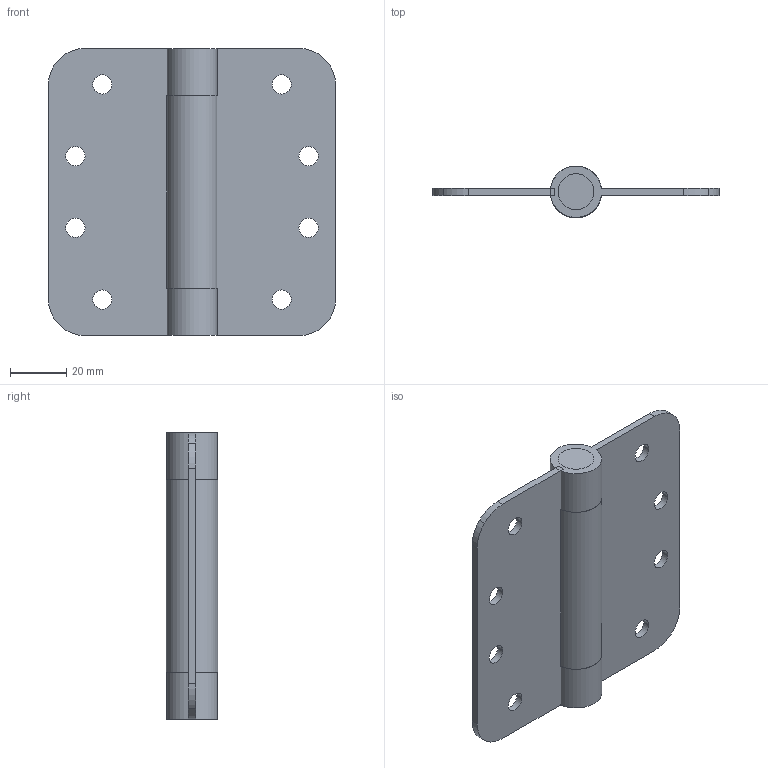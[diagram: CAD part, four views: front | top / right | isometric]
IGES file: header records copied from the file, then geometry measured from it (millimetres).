
Global section: file name: C:\Documents and Settings\Administrator\Desktop\Transfer Temp\springloadedhinge.igs; native system: AutoDesk Inventor R2.0 ; preprocessor: AutoDesk Inventor Iges Exporter R2.0; author: No Author specified; organization: No Organization specified; date: 20020113.191909; units: inch
Bounding box: 101.6 x 18.14 x 101.6 mm (x, y, z)
Surface area: 32693.2 mm2 (no closed solid volume)
Topology: 0 solids, 0 shells, 57 faces, 306 edges, 306 vertices
Faces by surface type: revolution 38, bspline 19
